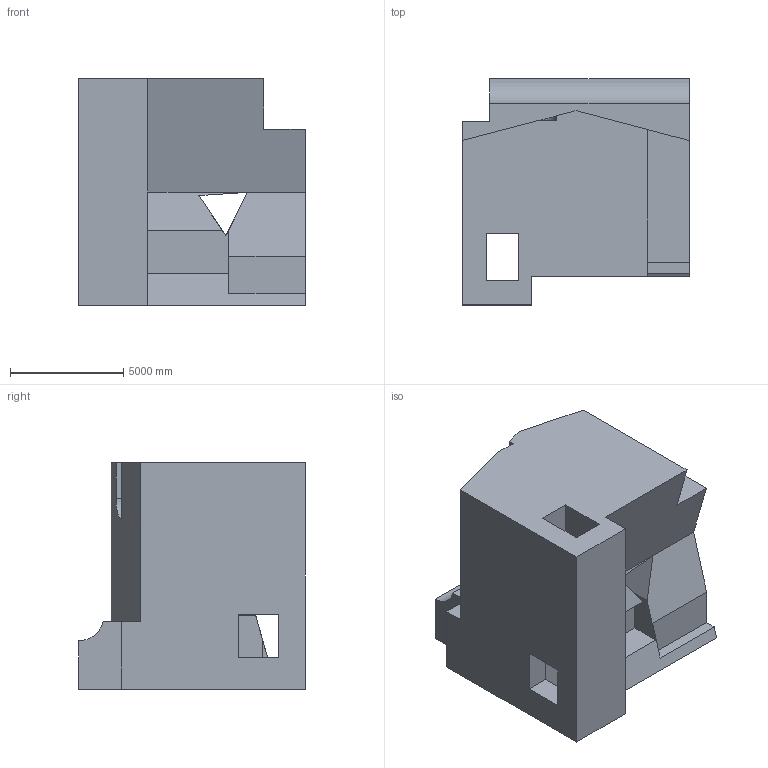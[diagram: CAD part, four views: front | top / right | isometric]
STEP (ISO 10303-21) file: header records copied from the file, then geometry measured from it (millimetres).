
FILE_DESCRIPTION (( 'STEP AP203' ), '1' );
FILE_NAME ('1959.STEP', '2022-08-25T16:52:18', ( 'user' ), ( '' ), 'SwSTEP 2.0', 'SolidWorks 2021', '' );
FILE_SCHEMA (( 'CONFIG_CONTROL_DESIGN' ));
Length unit declared in the file: centimetre
Products named in the file (1): 1959
Bounding box: 10000 x 10000 x 10000 mm (x, y, z)
Volume: 624124502061.6 mm3; surface area: 638624335.4 mm2
Topology: 1 solids, 1 shells, 39 faces, 117 edges, 78 vertices
Faces by surface type: plane 37, cylinder 2
Entity records: 1387 total; most frequent: CARTESIAN_POINT 238, ORIENTED_EDGE 234, DIRECTION 199, EDGE_CURVE 117, LINE 113, VECTOR 113, VERTEX_POINT 78, EDGE_LOOP 45
